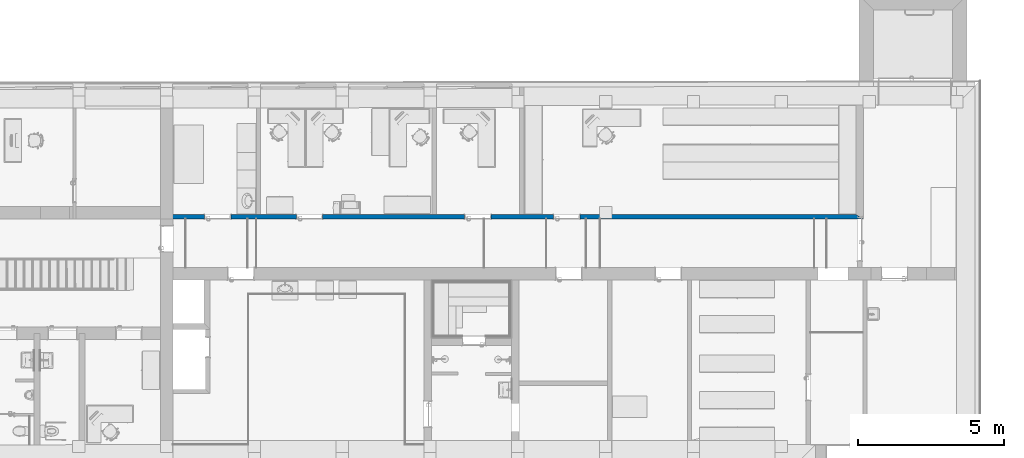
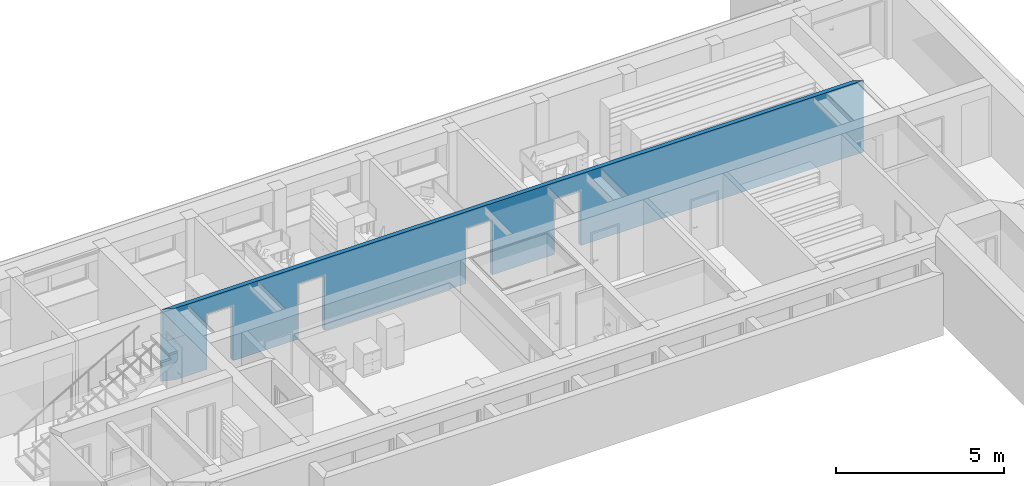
# One storey, part 23 of 127: 1 wall, 4 openings.
"""IFC2X3 building model written with IfcOpenShell, lengths in millimetres."""

from ifc_helpers import new_model, entity, si_unit, converted_unit, derived_unit, money_unit, direction, frame, origin_with_axes, origin_2d_with_axis, place, context, subcontext, project, spatial, polyline, rectangle, outline, extrude, material, layer, layer_set, layer_usage, type_object, element, save


model = new_model("IFC2X3")

# Units and contexts
model_context = context("Model", 3, precision=1e-05, world=origin_with_axes(), true_north=direction((0.0, 1.0)))
body_context = subcontext(model_context, "Body", "Model", "MODEL_VIEW")
ifc_project = project(units=[si_unit("LENGTHUNIT", "METRE", prefix="MILLI"), si_unit("AREAUNIT", "SQUARE_METRE"), si_unit("VOLUMEUNIT", "CUBIC_METRE"), converted_unit("PLANEANGLEUNIT", "DEGREE", entity("IfcPlaneAngleMeasure", 0.0174532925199), si_unit("PLANEANGLEUNIT", "RADIAN"), dimensions=[0, 0, 0, 0, 0, 0, 0]), si_unit("SOLIDANGLEUNIT", "STERADIAN"), money_unit("EUR"), converted_unit("TIMEUNIT", "Year", entity("IfcTimeMeasure", 31556926.0), si_unit("TIMEUNIT", "SECOND"), dimensions=[0, 0, 1, 0, 0, 0, 0]), si_unit("MASSUNIT", "GRAM", prefix="KILO"), si_unit("THERMODYNAMICTEMPERATUREUNIT", "DEGREE_CELSIUS"), si_unit("LUMINOUSINTENSITYUNIT", "LUMEN"), si_unit("ENERGYUNIT", "JOULE", prefix="MEGA"), derived_unit("THERMALCONDUCTANCEUNIT", [(si_unit("POWERUNIT", "WATT"), 1), (si_unit("LENGTHUNIT", "METRE"), -1), (si_unit("THERMODYNAMICTEMPERATUREUNIT", "KELVIN"), -1)]), derived_unit("SPECIFICHEATCAPACITYUNIT", [(si_unit("ENERGYUNIT", "JOULE"), 1), (si_unit("MASSUNIT", "GRAM", prefix="KILO"), -1), (si_unit("THERMODYNAMICTEMPERATUREUNIT", "KELVIN"), -1)]), derived_unit("MASSDENSITYUNIT", [(si_unit("MASSUNIT", "GRAM", prefix="KILO"), 1), (si_unit("VOLUMEUNIT", "CUBIC_METRE"), -1)])], contexts=[model_context])

# Site, building, storey
site_placement = place(None, origin_with_axes())
site = spatial("IfcSite", under=ifc_project, at=site_placement, Name="Site", CompositionType="ELEMENT")
building_placement = place(site_placement, origin_with_axes())
building = spatial("IfcBuilding", under=site, at=building_placement, Name="Building", CompositionType="ELEMENT")
storey_placement = place(building_placement, origin_with_axes())
storey = spatial("IfcBuildingStorey", under=building, at=storey_placement, Name="1 KORRUS", CompositionType="ELEMENT", Elevation=0.0)

# Wall, openings
ifc_material = material(Name="Kivi -Ol.Olev Konstruktsioon")
ifc_layer = layer(ifc_material, 150.0, ventilated="UNKNOWN")
ifc_layer_set = layer_set([ifc_layer], Name="ol.olev ss 150")
ifc_layer_usage = layer_usage(ifc_layer_set, "AXIS2", "POSITIVE", 0.0)
wall_type = type_object("IfcWallType", Name="SW - 022", PredefinedType="NOTDEFINED")
wall_placement = place(storey_placement, frame((39753.4452833, 67449.5917349, 0.0), z_axis=(0.0, 0.0, 1.0), x_axis=(-1.0, 0.0, 0.0)))
wall = element("IfcWallStandardCase", 1, at=wall_placement, inside=storey, type_object=wall_type, material=ifc_layer_usage, Name="ol.olev ss 150", context=body_context, shape_type="SweptSolid", body=[
    extrude(outline(polyline([(250.0, 0.0), (24014.5677276, 0.0), (23594.5677276, 150.0), (0.0, 150.0), (250.0, 0.0)])), origin_with_axes(), (0.0, 0.0, 1.0), 2600.0),
])
opening_1_placement = place(wall_placement, frame((22065.2013929, 0.0, 0.0), z_axis=(0.0, 0.0, 1.0), x_axis=(1.0, 0.0, 0.0)))
element("IfcOpeningElement", 2, at=opening_1_placement, cuts=wall, Name="Siseuks * Door 22", context=body_context, shape_type="SweptSolid", body=[
    extrude(rectangle(XDim=900.0, YDim=2000.0, at=origin_2d_with_axis()), frame((0.0, -150.0, 1000.0), z_axis=(0.0, -1.0, 0.0), x_axis=(-1.0, 0.0, 0.0)), (0.0, 0.0, -1.0), 450.0),
    extrude(rectangle(XDim=974.0, YDim=2037.0, at=origin_2d_with_axis()), frame((0.0, 0.0, 1018.5), z_axis=(0.0, -1.0, 0.0), x_axis=(-1.0, 0.0, 0.0)), (0.0, 0.0, 1.0), 150.0),
    extrude(rectangle(XDim=974.0, YDim=2037.0, at=origin_2d_with_axis()), frame((0.0, 150.0, 1018.5), z_axis=(0.0, 1.0, 0.0), x_axis=(-1.0, 0.0, 0.0)), (0.0, 0.0, 1.0), 150.0),
])
opening_2_placement = place(wall_placement, frame((18928.6938842, 0.0, 0.0), z_axis=(0.0, 0.0, 1.0), x_axis=(1.0, 0.0, 0.0)))
element("IfcOpeningElement", 3, at=opening_2_placement, cuts=wall, Name="Siseuks * Door 22", context=body_context, shape_type="SweptSolid", body=[
    extrude(rectangle(XDim=900.0, YDim=2000.0, at=origin_2d_with_axis()), frame((0.0, -150.0, 1000.0), z_axis=(0.0, -1.0, 0.0), x_axis=(-1.0, 0.0, 0.0)), (0.0, 0.0, -1.0), 450.0),
    extrude(rectangle(XDim=974.0, YDim=2037.0, at=origin_2d_with_axis()), frame((0.0, 0.0, 1018.5), z_axis=(0.0, -1.0, 0.0), x_axis=(-1.0, 0.0, 0.0)), (0.0, 0.0, 1.0), 150.0),
    extrude(rectangle(XDim=974.0, YDim=2037.0, at=origin_2d_with_axis()), frame((0.0, 150.0, 1018.5), z_axis=(0.0, 1.0, 0.0), x_axis=(-1.0, 0.0, 0.0)), (0.0, 0.0, 1.0), 150.0),
])
opening_3_placement = place(wall_placement, frame((13172.0295331, 0.0, 0.0), z_axis=(0.0, 0.0, 1.0), x_axis=(1.0, 0.0, 0.0)))
element("IfcOpeningElement", 4, at=opening_3_placement, cuts=wall, Name="Siseuks * Door 22", context=body_context, shape_type="SweptSolid", body=[
    extrude(rectangle(XDim=900.0, YDim=2000.0, at=origin_2d_with_axis()), frame((0.0, -150.0, 1000.0), z_axis=(0.0, -1.0, 0.0), x_axis=(-1.0, 0.0, 0.0)), (0.0, 0.0, -1.0), 450.0),
    extrude(rectangle(XDim=974.0, YDim=2037.0, at=origin_2d_with_axis()), frame((0.0, 0.0, 1018.5), z_axis=(0.0, -1.0, 0.0), x_axis=(-1.0, 0.0, 0.0)), (0.0, 0.0, 1.0), 150.0),
    extrude(rectangle(XDim=974.0, YDim=2037.0, at=origin_2d_with_axis()), frame((0.0, 150.0, 1018.5), z_axis=(0.0, 1.0, 0.0), x_axis=(-1.0, 0.0, 0.0)), (0.0, 0.0, 1.0), 150.0),
])
opening_4_placement = place(wall_placement, frame((10139.7155236, 0.0, 0.0), z_axis=(0.0, 0.0, 1.0), x_axis=(1.0, 0.0, 0.0)))
element("IfcOpeningElement", 5, at=opening_4_placement, cuts=wall, Name="Siseuks * Door 22", context=body_context, shape_type="SweptSolid", body=[
    extrude(rectangle(XDim=900.0, YDim=2000.0, at=origin_2d_with_axis()), frame((0.0, -150.0, 1000.0), z_axis=(0.0, -1.0, 0.0), x_axis=(-1.0, 0.0, 0.0)), (0.0, 0.0, -1.0), 450.0),
    extrude(rectangle(XDim=974.0, YDim=2037.0, at=origin_2d_with_axis()), frame((0.0, 0.0, 1018.5), z_axis=(0.0, -1.0, 0.0), x_axis=(-1.0, 0.0, 0.0)), (0.0, 0.0, 1.0), 150.0),
    extrude(rectangle(XDim=974.0, YDim=2037.0, at=origin_2d_with_axis()), frame((0.0, 150.0, 1018.5), z_axis=(0.0, 1.0, 0.0), x_axis=(-1.0, 0.0, 0.0)), (0.0, 0.0, 1.0), 150.0),
])

save(model, "model.ifc")
